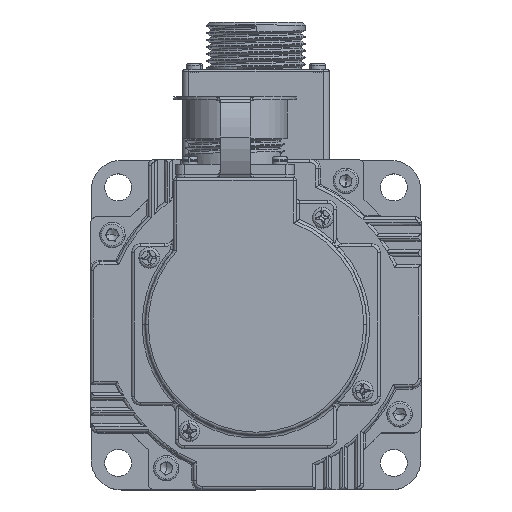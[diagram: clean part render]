
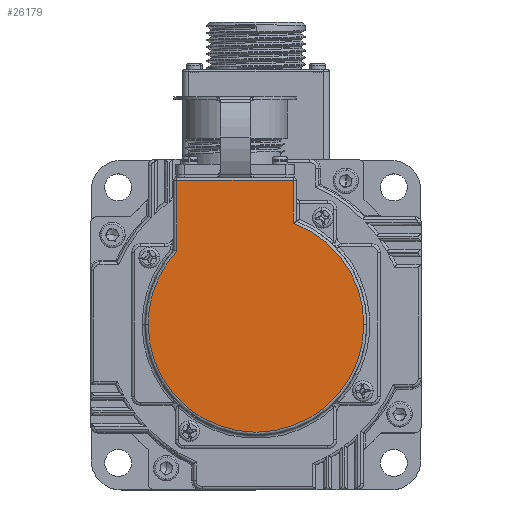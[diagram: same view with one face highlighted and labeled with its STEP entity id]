
A CAD part, top view. The second image highlights one B-rep face of the part: STEP entity #26179.
In plain terms, the highlighted planar face has unit normal (0, 0, 1).
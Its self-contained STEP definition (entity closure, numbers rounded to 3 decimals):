
#1873 = CARTESIAN_POINT ( 'NONE',  ( -47.849, 30.091, 90.3 ) ) ;
#2731 = CARTESIAN_POINT ( 'NONE',  ( -74.349, 54.845, 90.3 ) ) ;
#3999 = VECTOR ( 'NONE', #6775, 1000. ) ;
#4353 = VERTEX_POINT ( 'NONE', #12844 ) ;
#4734 = CARTESIAN_POINT ( 'NONE',  ( -74.349, 78.091, 90.3 ) ) ;
#6115 = DIRECTION ( 'NONE',  ( 1., 0., 0. ) ) ;
#6446 = EDGE_CURVE ( 'NONE', #26972, #20568, #10308, .T. ) ;
#6775 = DIRECTION ( 'NONE',  ( -1., 0., 0. ) ) ;
#9543 = AXIS2_PLACEMENT_3D ( 'NONE', #21995, #40977, #37151 ) ;
#9676 = AXIS2_PLACEMENT_3D ( 'NONE', #1873, #37256, #24663 ) ;
#10308 = CIRCLE ( 'NONE', #9543, 36. ) ;
#10731 = ORIENTED_EDGE ( 'NONE', *, *, #27517, .T. ) ;
#11230 = DIRECTION ( 'NONE',  ( 0., 1., 0. ) ) ;
#12332 = CIRCLE ( 'NONE', #27723, 36. ) ;
#12641 = EDGE_CURVE ( 'NONE', #17777, #32391, #36875, .T. ) ;
#12705 = PLANE ( 'NONE',  #35357 ) ;
#12844 = CARTESIAN_POINT ( 'NONE',  ( -35.349, 63.851, 90.3 ) ) ;
#13140 = ORIENTED_EDGE ( 'NONE', *, *, #15095, .T. ) ;
#15095 = EDGE_CURVE ( 'NONE', #4353, #33444, #45931, .T. ) ;
#15152 = ORIENTED_EDGE ( 'NONE', *, *, #12641, .T. ) ;
#16771 = LINE ( 'NONE', #36500, #3999 ) ;
#17290 = FACE_OUTER_BOUND ( 'NONE', #32509, .T. ) ;
#17546 = CARTESIAN_POINT ( 'NONE',  ( -47.849, 30.091, 90.3 ) ) ;
#17777 = VERTEX_POINT ( 'NONE', #4734 ) ;
#18086 = CARTESIAN_POINT ( 'NONE',  ( -74.349, 54.458, 90.3 ) ) ;
#20568 = VERTEX_POINT ( 'NONE', #49283 ) ;
#21995 = CARTESIAN_POINT ( 'NONE',  ( -47.849, 30.091, 90.3 ) ) ;
#22516 = EDGE_CURVE ( 'NONE', #32391, #26972, #12332, .T. ) ;
#24663 = DIRECTION ( 'NONE',  ( 1., 0., 0. ) ) ;
#25949 = VECTOR ( 'NONE', #30058, 1000. ) ;
#26179 = ADVANCED_FACE ( 'NONE', ( #17290 ), #12705, .T. ) ;
#26716 = ORIENTED_EDGE ( 'NONE', *, *, #6446, .T. ) ;
#26972 = VERTEX_POINT ( 'NONE', #27692 ) ;
#27517 = EDGE_CURVE ( 'NONE', #20568, #4353, #31511, .T. ) ;
#27692 = CARTESIAN_POINT ( 'NONE',  ( -83.849, 30.091, 90.3 ) ) ;
#27723 = AXIS2_PLACEMENT_3D ( 'NONE', #37544, #48924, #49917 ) ;
#29636 = CARTESIAN_POINT ( 'NONE',  ( -35.349, 78.091, 90.3 ) ) ;
#30058 = DIRECTION ( 'NONE',  ( 0., -1., 0. ) ) ;
#31511 = CIRCLE ( 'NONE', #9676, 36. ) ;
#32060 = ORIENTED_EDGE ( 'NONE', *, *, #46100, .T. ) ;
#32223 = DIRECTION ( 'NONE',  ( 0., 0., 1. ) ) ;
#32391 = VERTEX_POINT ( 'NONE', #18086 ) ;
#32509 = EDGE_LOOP ( 'NONE', ( #13140, #32060, #15152, #39355, #26716, #10731 ) ) ;
#33444 = VERTEX_POINT ( 'NONE', #29636 ) ;
#35357 = AXIS2_PLACEMENT_3D ( 'NONE', #17546, #32223, #6115 ) ;
#36500 = CARTESIAN_POINT ( 'NONE',  ( -75.349, 78.091, 90.3 ) ) ;
#36875 = LINE ( 'NONE', #2731, #25949 ) ;
#37151 = DIRECTION ( 'NONE',  ( 1., 0., 0. ) ) ;
#37256 = DIRECTION ( 'NONE',  ( 0., 0., 1. ) ) ;
#37544 = CARTESIAN_POINT ( 'NONE',  ( -47.849, 30.091, 90.3 ) ) ;
#38332 = CARTESIAN_POINT ( 'NONE',  ( -35.349, 79.091, 90.3 ) ) ;
#38438 = VECTOR ( 'NONE', #11230, 1000. ) ;
#39355 = ORIENTED_EDGE ( 'NONE', *, *, #22516, .T. ) ;
#40977 = DIRECTION ( 'NONE',  ( 0., 0., 1. ) ) ;
#45931 = LINE ( 'NONE', #38332, #38438 ) ;
#46100 = EDGE_CURVE ( 'NONE', #33444, #17777, #16771, .T. ) ;
#48924 = DIRECTION ( 'NONE',  ( 0., 0., 1. ) ) ;
#49283 = CARTESIAN_POINT ( 'NONE',  ( -11.849, 30.091, 90.3 ) ) ;
#49917 = DIRECTION ( 'NONE',  ( 1., 0., 0. ) ) ;
